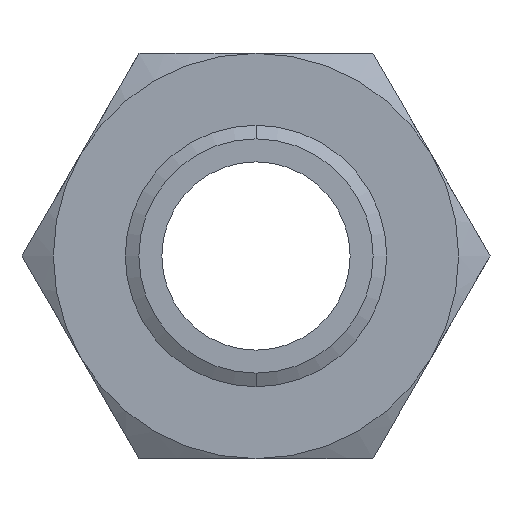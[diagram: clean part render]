
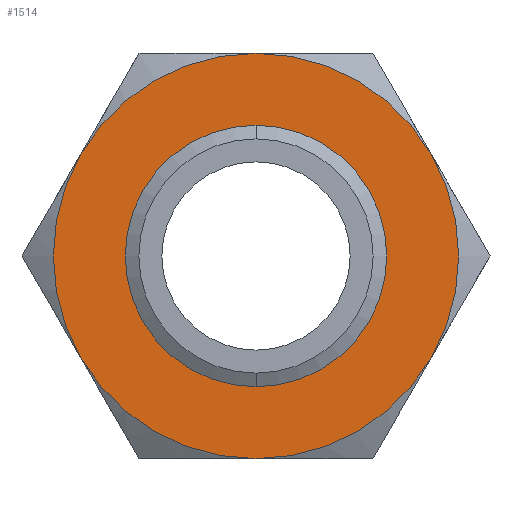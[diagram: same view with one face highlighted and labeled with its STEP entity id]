
A CAD part, front view. The second image highlights one B-rep face of the part: STEP entity #1514.
In plain terms, the highlighted planar face has unit normal (0, -1, 0).
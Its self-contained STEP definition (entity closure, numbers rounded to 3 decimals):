
#111 = DIRECTION ( 'NONE',  ( 0., 0., 1. ) ) ;
#122 = DIRECTION ( 'NONE',  ( 0., 1., 0. ) ) ;
#123 = CARTESIAN_POINT ( 'NONE',  ( 44.745, 0., -77.5 ) ) ;
#124 = AXIS2_PLACEMENT_3D ( 'NONE', #123, #122, #111 ) ;
#125 = PLANE ( 'NONE',  #124 ) ;
#127 = FACE_BOUND ( 'NONE', #1651, .T. ) ;
#128 = FACE_OUTER_BOUND ( 'NONE', #1674, .T. ) ;
#163 = CARTESIAN_POINT ( 'NONE',  ( 0., 0., 77.5 ) ) ;
#206 = CIRCLE ( 'NONE', #249, 44.804 ) ;
#246 = DIRECTION ( 'NONE',  ( 0., 0., -1. ) ) ;
#247 = DIRECTION ( 'NONE',  ( 0., -1., 0. ) ) ;
#248 = CARTESIAN_POINT ( 'NONE',  ( 0., 0., 0. ) ) ;
#249 = AXIS2_PLACEMENT_3D ( 'NONE', #248, #247, #246 ) ;
#316 = DIRECTION ( 'NONE',  ( 0., 0., 1. ) ) ;
#317 = DIRECTION ( 'NONE',  ( 0., 1., 0. ) ) ;
#318 = CARTESIAN_POINT ( 'NONE',  ( 0., 0., 0. ) ) ;
#319 = AXIS2_PLACEMENT_3D ( 'NONE', #318, #317, #316 ) ;
#320 = CIRCLE ( 'NONE', #319, 77.5 ) ;
#321 = CARTESIAN_POINT ( 'NONE',  ( 67.117, 0., 38.75 ) ) ;
#464 = DIRECTION ( 'NONE',  ( 0., 0., 1. ) ) ;
#465 = DIRECTION ( 'NONE',  ( 0., 1., 0. ) ) ;
#466 = CARTESIAN_POINT ( 'NONE',  ( 0., 0., 0. ) ) ;
#467 = AXIS2_PLACEMENT_3D ( 'NONE', #466, #465, #464 ) ;
#468 = CARTESIAN_POINT ( 'NONE',  ( 67.117, 0., -38.75 ) ) ;
#474 = CIRCLE ( 'NONE', #467, 77.5 ) ;
#481 = DIRECTION ( 'NONE',  ( 0., 0., 1. ) ) ;
#482 = DIRECTION ( 'NONE',  ( 0., 1., 0. ) ) ;
#483 = CARTESIAN_POINT ( 'NONE',  ( 0., 0., 0. ) ) ;
#484 = AXIS2_PLACEMENT_3D ( 'NONE', #483, #482, #481 ) ;
#485 = CIRCLE ( 'NONE', #484, 77.5 ) ;
#500 = DIRECTION ( 'NONE',  ( 0., 0., 1. ) ) ;
#501 = DIRECTION ( 'NONE',  ( 0., 1., 0. ) ) ;
#502 = CARTESIAN_POINT ( 'NONE',  ( 0., 0., 0. ) ) ;
#503 = AXIS2_PLACEMENT_3D ( 'NONE', #502, #501, #500 ) ;
#504 = CIRCLE ( 'NONE', #503, 77.5 ) ;
#505 = DIRECTION ( 'NONE',  ( 0., 0., 1. ) ) ;
#506 = DIRECTION ( 'NONE',  ( 0., 1., 0. ) ) ;
#507 = CARTESIAN_POINT ( 'NONE',  ( 0., 0., 0. ) ) ;
#508 = AXIS2_PLACEMENT_3D ( 'NONE', #507, #506, #505 ) ;
#509 = CIRCLE ( 'NONE', #508, 77.5 ) ;
#510 = CARTESIAN_POINT ( 'NONE',  ( -67.117, 0., -38.75 ) ) ;
#511 = DIRECTION ( 'NONE',  ( 0., 0., 1. ) ) ;
#512 = DIRECTION ( 'NONE',  ( 0., 1., 0. ) ) ;
#513 = CARTESIAN_POINT ( 'NONE',  ( 0., 0., 0. ) ) ;
#514 = AXIS2_PLACEMENT_3D ( 'NONE', #513, #512, #511 ) ;
#515 = CIRCLE ( 'NONE', #514, 77.5 ) ;
#519 = CARTESIAN_POINT ( 'NONE',  ( 0., 0., -77.5 ) ) ;
#523 = CARTESIAN_POINT ( 'NONE',  ( -67.117, 0., 38.75 ) ) ;
#578 = CARTESIAN_POINT ( 'NONE',  ( 0., 0., -44.804 ) ) ;
#579 = DIRECTION ( 'NONE',  ( 0., 0., -1. ) ) ;
#580 = DIRECTION ( 'NONE',  ( 0., -1., 0. ) ) ;
#581 = CARTESIAN_POINT ( 'NONE',  ( 0., 0., 0. ) ) ;
#582 = AXIS2_PLACEMENT_3D ( 'NONE', #581, #580, #579 ) ;
#583 = CIRCLE ( 'NONE', #582, 44.804 ) ;
#584 = CARTESIAN_POINT ( 'NONE',  ( 0., 0., 44.804 ) ) ;
#1514 = ADVANCED_FACE ( 'NONE', ( #128, #127 ), #125, .F. ) ;
#1542 = VERTEX_POINT ( 'NONE', #163 ) ;
#1556 = ORIENTED_EDGE ( 'NONE', *, *, #1559, .F. ) ;
#1559 = EDGE_CURVE ( 'NONE', #1705, #1709, #206, .T. ) ;
#1586 = EDGE_CURVE ( 'NONE', #1667, #1542, #320, .T. ) ;
#1587 = ORIENTED_EDGE ( 'NONE', *, *, #1586, .F. ) ;
#1588 = VERTEX_POINT ( 'NONE', #321 ) ;
#1643 = ORIENTED_EDGE ( 'NONE', *, *, #1708, .F. ) ;
#1649 = ORIENTED_EDGE ( 'NONE', *, *, #1650, .F. ) ;
#1650 = EDGE_CURVE ( 'NONE', #1542, #1588, #485, .T. ) ;
#1651 = EDGE_LOOP ( 'NONE', ( #1643, #1556 ) ) ;
#1659 = ORIENTED_EDGE ( 'NONE', *, *, #1660, .F. ) ;
#1660 = EDGE_CURVE ( 'NONE', #1588, #1661, #474, .T. ) ;
#1661 = VERTEX_POINT ( 'NONE', #468 ) ;
#1667 = VERTEX_POINT ( 'NONE', #523 ) ;
#1668 = ORIENTED_EDGE ( 'NONE', *, *, #1681, .F. ) ;
#1674 = EDGE_LOOP ( 'NONE', ( #1649, #1587, #1668, #1680, #1675, #1659 ) ) ;
#1675 = ORIENTED_EDGE ( 'NONE', *, *, #1677, .F. ) ;
#1676 = VERTEX_POINT ( 'NONE', #519 ) ;
#1677 = EDGE_CURVE ( 'NONE', #1661, #1676, #515, .T. ) ;
#1678 = VERTEX_POINT ( 'NONE', #510 ) ;
#1679 = EDGE_CURVE ( 'NONE', #1676, #1678, #509, .T. ) ;
#1680 = ORIENTED_EDGE ( 'NONE', *, *, #1679, .F. ) ;
#1681 = EDGE_CURVE ( 'NONE', #1678, #1667, #504, .T. ) ;
#1705 = VERTEX_POINT ( 'NONE', #584 ) ;
#1708 = EDGE_CURVE ( 'NONE', #1709, #1705, #583, .T. ) ;
#1709 = VERTEX_POINT ( 'NONE', #578 ) ;
